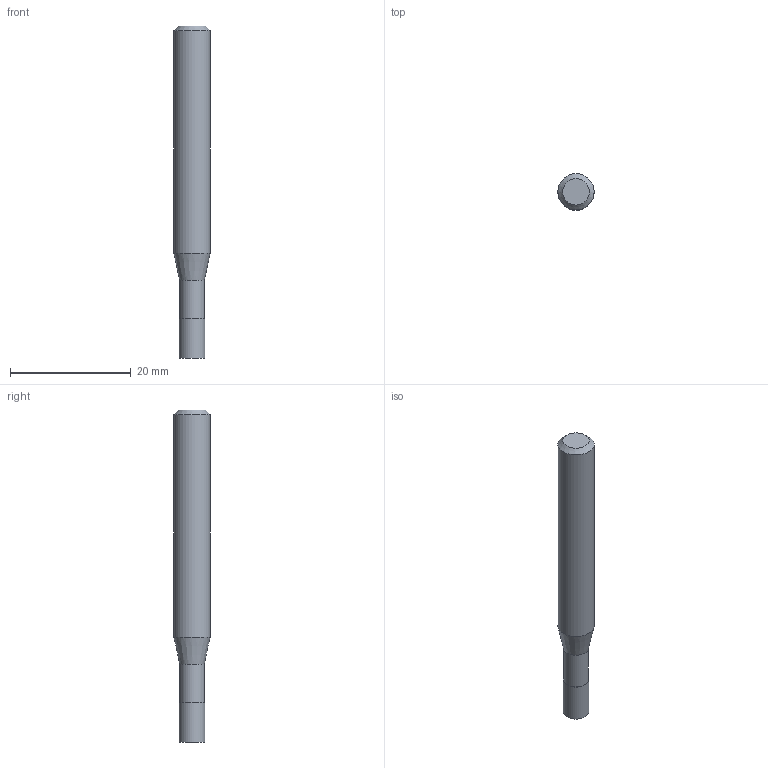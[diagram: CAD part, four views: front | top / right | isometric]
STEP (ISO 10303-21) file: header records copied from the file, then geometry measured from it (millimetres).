
FILE_DESCRIPTION((''),'2;1');
FILE_NAME('C:\Users\nsx150\AppData\Local\Temp\Mastercam 2021\EUJSUNXURU\TEMP.step','2021-04-22T10:28:21',(''),(''),'STEP Write','Mastercam 2021 ... CNC Software, Inc.','');
FILE_SCHEMA(('AUTOMOTIVE_DESIGN'));
Length unit declared in the file: millimetre
Products named in the file (1): None
Bounding box: 6 x 6 x 55 mm (x, y, z)
Volume: 1328 mm3; surface area: 1012.9 mm2
Topology: 2 solids, 2 shells, 9 faces, 12 edges, 7 vertices
Faces by surface type: plane 4, cylinder 3, cone 2
Full cylindrical faces by diameter (mm): 4.1 x1, 4.3 x1, 6 x1
Entity records: 211 total; most frequent: DIRECTION 36, CARTESIAN_POINT 25, AXIS2_PLACEMENT_3D 18, ORIENTED_EDGE 14, EDGE_LOOP 14, STYLED_ITEM 12, ADVANCED_FACE 9, FACE_BOUND 8
